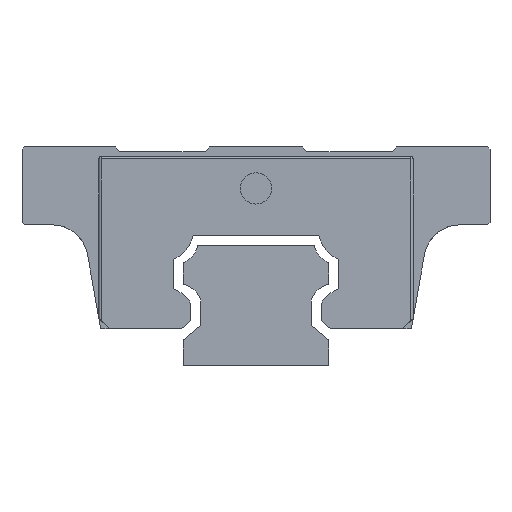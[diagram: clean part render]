
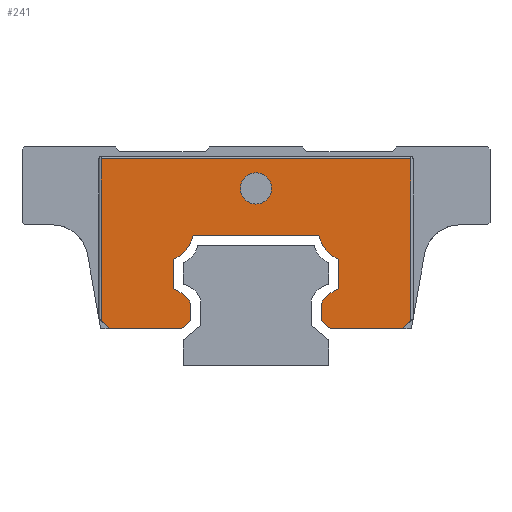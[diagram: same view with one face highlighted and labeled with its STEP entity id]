
A CAD part, left-side view. The second image highlights one B-rep face of the part: STEP entity #241.
In plain terms, the highlighted planar face has unit normal (-1, 0, 0).
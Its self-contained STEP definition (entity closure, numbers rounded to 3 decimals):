
#47=FACE_BOUND('',#568,.T.);
#48=FACE_BOUND('',#569,.T.);
#241=ADVANCED_FACE('',(#47,#48),#381,.T.);
#381=PLANE('',#2538);
#568=EDGE_LOOP('',(#1281));
#569=EDGE_LOOP('',(#1282,#1283,#1284,#1285,#1286,#1287,#1288,#1289,#1290,
#1291,#1292,#1293,#1294,#1295,#1296,#1297,#1298,#1299));
#764=LINE('',#3528,#976);
#770=LINE('',#3544,#982);
#773=LINE('',#3550,#985);
#780=LINE('',#3564,#992);
#781=LINE('',#3574,#993);
#794=LINE('',#3601,#1006);
#803=LINE('',#3621,#1015);
#806=LINE('',#3627,#1018);
#811=LINE('',#3636,#1023);
#819=LINE('',#3653,#1031);
#826=LINE('',#3668,#1038);
#827=LINE('',#3672,#1039);
#828=LINE('',#3674,#1040);
#829=LINE('',#3676,#1041);
#976=VECTOR('',#2793,1.);
#982=VECTOR('',#2807,1.);
#985=VECTOR('',#2812,1.);
#992=VECTOR('',#2821,1.);
#993=VECTOR('',#2826,1.);
#1006=VECTOR('',#2847,1.);
#1015=VECTOR('',#2860,1.);
#1018=VECTOR('',#2865,1.);
#1023=VECTOR('',#2872,1.);
#1031=VECTOR('',#2886,1.);
#1038=VECTOR('',#2899,1.);
#1039=VECTOR('',#2904,1.);
#1040=VECTOR('',#2905,1.);
#1041=VECTOR('',#2906,1.);
#1281=ORIENTED_EDGE('',*,*,#2148,.F.);
#1282=ORIENTED_EDGE('',*,*,#2099,.T.);
#1283=ORIENTED_EDGE('',*,*,#2149,.T.);
#1284=ORIENTED_EDGE('',*,*,#2150,.T.);
#1285=ORIENTED_EDGE('',*,*,#2151,.T.);
#1286=ORIENTED_EDGE('',*,*,#2112,.T.);
#1287=ORIENTED_EDGE('',*,*,#2122,.T.);
#1288=ORIENTED_EDGE('',*,*,#2125,.T.);
#1289=ORIENTED_EDGE('',*,*,#2130,.T.);
#1290=ORIENTED_EDGE('',*,*,#2132,.T.);
#1291=ORIENTED_EDGE('',*,*,#2139,.T.);
#1292=ORIENTED_EDGE('',*,*,#2141,.T.);
#1293=ORIENTED_EDGE('',*,*,#2147,.T.);
#1294=ORIENTED_EDGE('',*,*,#2070,.T.);
#1295=ORIENTED_EDGE('',*,*,#2078,.T.);
#1296=ORIENTED_EDGE('',*,*,#2081,.T.);
#1297=ORIENTED_EDGE('',*,*,#2086,.T.);
#1298=ORIENTED_EDGE('',*,*,#2089,.T.);
#1299=ORIENTED_EDGE('',*,*,#2096,.T.);
#1847=VERTEX_POINT('',#3511);
#1848=VERTEX_POINT('',#3513);
#1854=VERTEX_POINT('',#3527);
#1856=VERTEX_POINT('',#3533);
#1860=VERTEX_POINT('',#3543);
#1862=VERTEX_POINT('',#3549);
#1868=VERTEX_POINT('',#3563);
#1871=VERTEX_POINT('',#3573);
#1882=VERTEX_POINT('',#3602);
#1883=VERTEX_POINT('',#3603);
#1890=VERTEX_POINT('',#3620);
#1892=VERTEX_POINT('',#3626);
#1895=VERTEX_POINT('',#3635);
#1896=VERTEX_POINT('',#3639);
#1901=VERTEX_POINT('',#3652);
#1902=VERTEX_POINT('',#3656);
#1907=VERTEX_POINT('',#3671);
#1908=VERTEX_POINT('',#3673);
#1909=VERTEX_POINT('',#3675);
#2070=EDGE_CURVE('',#1848,#1847,#2398,.T.);
#2078=EDGE_CURVE('',#1847,#1854,#764,.T.);
#2081=EDGE_CURVE('',#1854,#1856,#2400,.T.);
#2086=EDGE_CURVE('',#1856,#1860,#770,.T.);
#2089=EDGE_CURVE('',#1860,#1862,#773,.T.);
#2096=EDGE_CURVE('',#1862,#1868,#780,.T.);
#2099=EDGE_CURVE('',#1868,#1871,#781,.T.);
#2112=EDGE_CURVE('',#1882,#1883,#794,.T.);
#2122=EDGE_CURVE('',#1883,#1890,#803,.T.);
#2125=EDGE_CURVE('',#1890,#1892,#806,.T.);
#2130=EDGE_CURVE('',#1892,#1895,#811,.T.);
#2132=EDGE_CURVE('',#1895,#1896,#2401,.T.);
#2139=EDGE_CURVE('',#1896,#1901,#819,.T.);
#2141=EDGE_CURVE('',#1901,#1902,#2402,.T.);
#2147=EDGE_CURVE('',#1902,#1848,#826,.T.);
#2148=EDGE_CURVE('',#1907,#1907,#2403,.T.);
#2149=EDGE_CURVE('',#1871,#1908,#827,.T.);
#2150=EDGE_CURVE('',#1908,#1909,#828,.T.);
#2151=EDGE_CURVE('',#1909,#1882,#829,.T.);
#2398=CIRCLE('',#2512,6.635);
#2400=CIRCLE('',#2516,6.635);
#2401=CIRCLE('',#2531,6.635);
#2402=CIRCLE('',#2534,6.635);
#2403=CIRCLE('',#2537,3.);
#2512=AXIS2_PLACEMENT_3D('',#3512,#2782,#2783);
#2516=AXIS2_PLACEMENT_3D('',#3534,#2799,#2800);
#2531=AXIS2_PLACEMENT_3D('',#3640,#2876,#2877);
#2534=AXIS2_PLACEMENT_3D('',#3657,#2890,#2891);
#2537=AXIS2_PLACEMENT_3D('',#3670,#2902,#2903);
#2538=AXIS2_PLACEMENT_3D('',#3677,#2907,#2908);
#2782=DIRECTION('',(-1.,0.,0.));
#2783=DIRECTION('',(0.,1.,0.));
#2793=DIRECTION('',(0.,0.,-1.));
#2799=DIRECTION('',(-1.,0.,0.));
#2800=DIRECTION('',(0.,1.,0.));
#2807=DIRECTION('',(0.,0.,-1.));
#2812=DIRECTION('',(0.,-0.766,-0.643));
#2821=DIRECTION('',(0.,-1.,0.));
#2826=DIRECTION('',(0.,-0.707,0.707));
#2847=DIRECTION('',(0.,-0.707,-0.707));
#2860=DIRECTION('',(0.,-1.,0.));
#2865=DIRECTION('',(0.,-0.766,0.643));
#2872=DIRECTION('',(0.,0.,1.));
#2876=DIRECTION('',(-1.,0.,0.));
#2877=DIRECTION('',(0.,-1.,0.));
#2886=DIRECTION('',(0.,0.,1.));
#2890=DIRECTION('',(-1.,0.,0.));
#2891=DIRECTION('',(0.,-1.,0.));
#2899=DIRECTION('',(0.,-1.,0.));
#2902=DIRECTION('',(-1.,0.,0.));
#2903=DIRECTION('',(0.,1.,0.));
#2904=DIRECTION('',(0.,0.,1.));
#2905=DIRECTION('',(0.,1.,0.));
#2906=DIRECTION('',(0.,0.,-1.));
#2907=DIRECTION('',(-1.,0.,0.));
#2908=DIRECTION('',(0.,0.,1.));
#3511=CARTESIAN_POINT('',(-48.15,-15.875,20.346));
#3512=CARTESIAN_POINT('',(-48.15,-18.525,26.428));
#3513=CARTESIAN_POINT('',(-48.15,-12.074,24.875));
#3527=CARTESIAN_POINT('',(-48.15,-15.875,14.703));
#3528=CARTESIAN_POINT('',(-48.15,-15.875,20.346));
#3533=CARTESIAN_POINT('',(-48.15,-12.538,11.903));
#3534=CARTESIAN_POINT('',(-48.15,-18.235,8.502));
#3543=CARTESIAN_POINT('',(-48.15,-12.538,8.541));
#3544=CARTESIAN_POINT('',(-48.15,-12.538,11.903));
#3549=CARTESIAN_POINT('',(-48.15,-14.375,7.));
#3550=CARTESIAN_POINT('',(-48.15,-12.538,8.541));
#3563=CARTESIAN_POINT('',(-48.15,-28.222,7.));
#3564=CARTESIAN_POINT('',(-48.15,-14.375,7.));
#3573=CARTESIAN_POINT('',(-48.15,-29.777,8.556));
#3574=CARTESIAN_POINT('',(-48.15,-28.222,7.));
#3601=CARTESIAN_POINT('',(-48.15,30.227,9.));
#3602=CARTESIAN_POINT('',(-48.15,29.777,8.55));
#3603=CARTESIAN_POINT('',(-48.15,28.227,7.));
#3620=CARTESIAN_POINT('',(-48.15,14.375,7.));
#3621=CARTESIAN_POINT('',(-48.15,28.227,7.));
#3626=CARTESIAN_POINT('',(-48.15,12.538,8.541));
#3627=CARTESIAN_POINT('',(-48.15,14.375,7.));
#3635=CARTESIAN_POINT('',(-48.15,12.538,11.903));
#3636=CARTESIAN_POINT('',(-48.15,12.538,8.541));
#3639=CARTESIAN_POINT('',(-48.15,15.875,14.703));
#3640=CARTESIAN_POINT('',(-48.15,18.235,8.502));
#3652=CARTESIAN_POINT('',(-48.15,15.875,20.346));
#3653=CARTESIAN_POINT('',(-48.15,15.875,14.703));
#3656=CARTESIAN_POINT('',(-48.15,12.074,24.875));
#3657=CARTESIAN_POINT('',(-48.15,18.525,26.428));
#3668=CARTESIAN_POINT('',(-48.15,12.074,24.875));
#3670=CARTESIAN_POINT('',(-48.15,0.,34.));
#3671=CARTESIAN_POINT('',(-48.15,3.,34.));
#3672=CARTESIAN_POINT('',(-48.15,-29.777,40.125));
#3673=CARTESIAN_POINT('',(-48.15,-29.777,39.675));
#3674=CARTESIAN_POINT('',(-48.15,30.227,39.675));
#3675=CARTESIAN_POINT('',(-48.15,29.777,39.675));
#3676=CARTESIAN_POINT('',(-48.15,29.777,9.));
#3677=CARTESIAN_POINT('',(-48.15,-18.525,26.428));
